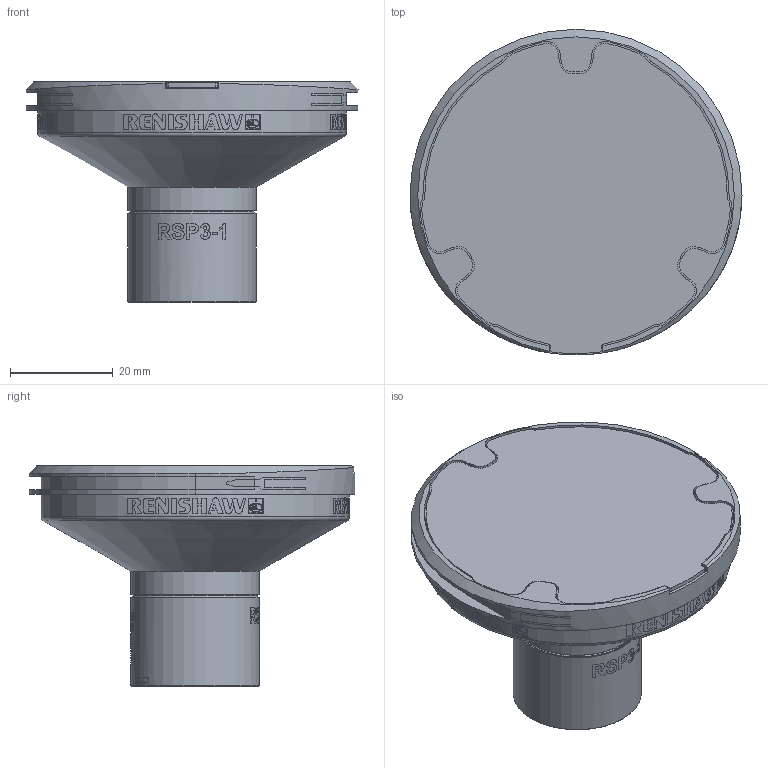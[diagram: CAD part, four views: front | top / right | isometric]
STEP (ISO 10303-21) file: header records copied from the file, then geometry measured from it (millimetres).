
FILE_DESCRIPTION(/* description */ (''),/* implementation_level */ '2;1');
FILE_NAME(/* name */ 'LA_3061_2305_D.stp',/* time_stamp */ '2014-02-06T13:10:28+00:00',/* author */ (''),/* organization */ (''),/* preprocessor_version */ 'ST-DEVELOPER v11',/* originating_system */ 'SIEMENS PLM Software NX 7.5',/* authorisation */ '');
FILE_SCHEMA (('AUTOMOTIVE_DESIGN { 1 0 10303 214 1 1 1 1 }'));
Length unit declared in the file: millimetre
Products named in the file (1): sj10D26Fkftq
Bounding box: 64.6 x 63.35 x 42.83 mm (x, y, z)
Volume: 55912.7 mm3; surface area: 11452.2 mm2
Topology: 1 solids, 1 shells, 286 faces, 1356 edges, 1161 vertices
Faces by surface type: cylinder 242, plane 33, cone 5, extrusion 4, torus 2
Full cylindrical faces by diameter (mm): 24.1 x2, 25 x2, 60 x1
Entity records: 18153 total; most frequent: CARTESIAN_POINT 6263, ORIENTED_EDGE 2642, DIRECTION 1329, EDGE_CURVE 1321, VERTEX_POINT 1143, B_SPLINE_CURVE_WITH_KNOTS 820, AXIS2_PLACEMENT_3D 551, EDGE_LOOP 388
